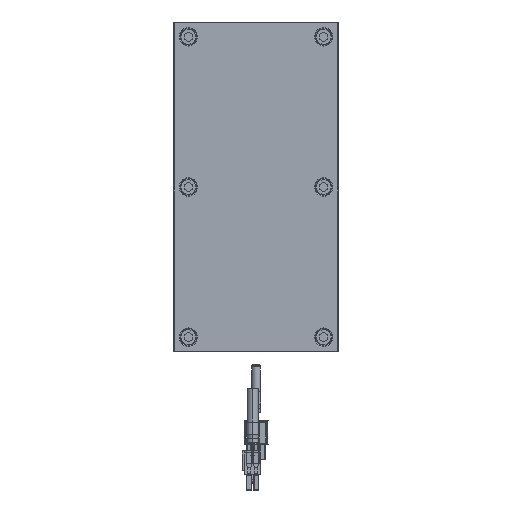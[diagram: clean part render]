
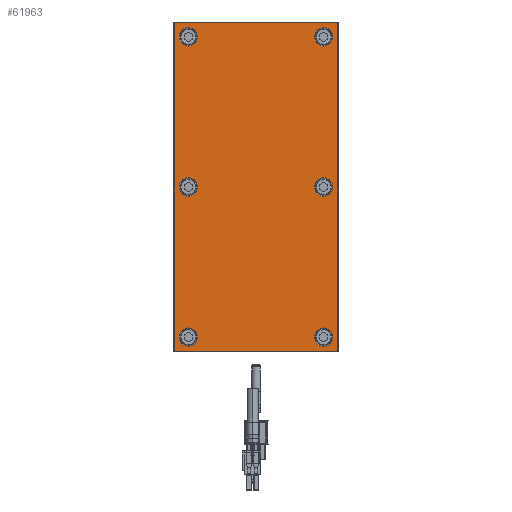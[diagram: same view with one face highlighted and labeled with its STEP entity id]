
A CAD part, front view. The second image highlights one B-rep face of the part: STEP entity #61963.
In plain terms, the highlighted planar face has unit normal (0, -1, 0).
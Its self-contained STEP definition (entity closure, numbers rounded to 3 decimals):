
#60580=CARTESIAN_POINT('',(99.,-7.,-49.));
#60581=DIRECTION('',(0.,-1.,0.));
#60582=DIRECTION('',(0.,0.,-1.));
#60583=AXIS2_PLACEMENT_3D('',#60580,#60581,#60582);
#60585=DIRECTION('',(1.,0.,0.));
#60586=VECTOR('',#60585,198.);
#60587=CARTESIAN_POINT('',(-99.,-7.,
-49.5));
#60588=LINE('',#60587,#60586);
#60589=CARTESIAN_POINT('',(-99.,-7.,-49.));
#60590=DIRECTION('',(0.,-1.,0.));
#60591=DIRECTION('',(-1.,0.,0.));
#60592=AXIS2_PLACEMENT_3D('',#60589,#60590,#60591);
#60594=DIRECTION('',(0.,0.,-1.));
#60595=VECTOR('',#60594,98.);
#60596=CARTESIAN_POINT('',(-99.5,-7.,
49.));
#60597=LINE('',#60596,#60595);
#60598=CARTESIAN_POINT('',(-99.,-7.,49.));
#60599=DIRECTION('',(0.,-1.,0.));
#60600=DIRECTION('',(0.,0.,1.));
#60601=AXIS2_PLACEMENT_3D('',#60598,#60599,#60600);
#60603=DIRECTION('',(-1.,0.,0.));
#60604=VECTOR('',#60603,198.);
#60605=CARTESIAN_POINT('',(99.,-7.,
49.5));
#60606=LINE('',#60605,#60604);
#60607=CARTESIAN_POINT('',(99.,-7.,49.));
#60608=DIRECTION('',(0.,-1.,0.));
#60609=DIRECTION('',(1.,0.,0.));
#60610=AXIS2_PLACEMENT_3D('',#60607,#60608,#60609);
#60612=DIRECTION('',(0.,0.,1.));
#60613=VECTOR('',#60612,98.);
#60614=CARTESIAN_POINT('',(99.5,-7.,
-49.));
#60615=LINE('',#60614,#60613);
#60616=CARTESIAN_POINT('',(-91.,-7.,-41.));
#60617=DIRECTION('',(0.,1.,0.));
#60618=DIRECTION('',(1.,0.,0.));
#60619=AXIS2_PLACEMENT_3D('',#60616,#60617,#60618);
#60621=CARTESIAN_POINT('',(-91.,-7.,-41.));
#60622=DIRECTION('',(0.,1.,0.));
#60623=DIRECTION('',(-1.,0.,0.));
#60624=AXIS2_PLACEMENT_3D('',#60621,#60622,#60623);
#60626=CARTESIAN_POINT('',(0.,-7.,-41.));
#60627=DIRECTION('',(0.,1.,0.));
#60628=DIRECTION('',(1.,0.,0.));
#60629=AXIS2_PLACEMENT_3D('',#60626,#60627,#60628);
#60631=CARTESIAN_POINT('',(0.,-7.,-41.));
#60632=DIRECTION('',(0.,1.,0.));
#60633=DIRECTION('',(-1.,0.,0.));
#60634=AXIS2_PLACEMENT_3D('',#60631,#60632,#60633);
#60636=CARTESIAN_POINT('',(91.,-7.,-41.));
#60637=DIRECTION('',(0.,1.,0.));
#60638=DIRECTION('',(1.,0.,0.));
#60639=AXIS2_PLACEMENT_3D('',#60636,#60637,#60638);
#60641=CARTESIAN_POINT('',(91.,-7.,-41.));
#60642=DIRECTION('',(0.,1.,0.));
#60643=DIRECTION('',(-1.,0.,0.));
#60644=AXIS2_PLACEMENT_3D('',#60641,#60642,#60643);
#60646=CARTESIAN_POINT('',(91.,-7.,41.));
#60647=DIRECTION('',(0.,1.,0.));
#60648=DIRECTION('',(1.,0.,0.));
#60649=AXIS2_PLACEMENT_3D('',#60646,#60647,#60648);
#60651=CARTESIAN_POINT('',(91.,-7.,41.));
#60652=DIRECTION('',(0.,1.,0.));
#60653=DIRECTION('',(-1.,0.,0.));
#60654=AXIS2_PLACEMENT_3D('',#60651,#60652,#60653);
#60656=CARTESIAN_POINT('',(0.,-7.,41.));
#60657=DIRECTION('',(0.,1.,0.));
#60658=DIRECTION('',(1.,0.,0.));
#60659=AXIS2_PLACEMENT_3D('',#60656,#60657,#60658);
#60661=CARTESIAN_POINT('',(0.,-7.,41.));
#60662=DIRECTION('',(0.,1.,0.));
#60663=DIRECTION('',(-1.,0.,0.));
#60664=AXIS2_PLACEMENT_3D('',#60661,#60662,#60663);
#60666=CARTESIAN_POINT('',(-91.,-7.,41.));
#60667=DIRECTION('',(0.,1.,0.));
#60668=DIRECTION('',(1.,0.,0.));
#60669=AXIS2_PLACEMENT_3D('',#60666,#60667,#60668);
#60671=CARTESIAN_POINT('',(-91.,-7.,41.));
#60672=DIRECTION('',(0.,1.,0.));
#60673=DIRECTION('',(-1.,0.,0.));
#60674=AXIS2_PLACEMENT_3D('',#60671,#60672,#60673);
#61704=CARTESIAN_POINT('',(99.,-7.,-49.5));
#61705=CARTESIAN_POINT('',(99.5,-7.,-49.));
#61706=VERTEX_POINT('',#61704);
#61707=VERTEX_POINT('',#61705);
#61712=CARTESIAN_POINT('',(99.5,-7.,
49.));
#61713=VERTEX_POINT('',#61712);
#61716=CARTESIAN_POINT('',(99.,-7.,49.5));
#61717=VERTEX_POINT('',#61716);
#61720=CARTESIAN_POINT('',(-99.,-7.,
49.5));
#61721=VERTEX_POINT('',#61720);
#61724=CARTESIAN_POINT('',(-99.5,-7.,49.));
#61725=VERTEX_POINT('',#61724);
#61728=CARTESIAN_POINT('',(-99.5,-7.,
-49.));
#61729=VERTEX_POINT('',#61728);
#61732=CARTESIAN_POINT('',(-99.,-7.,-49.5));
#61733=VERTEX_POINT('',#61732);
#61760=CARTESIAN_POINT('',(-85.45,-7.,-41.));
#61761=CARTESIAN_POINT('',(-96.55,-7.,-41.));
#61762=VERTEX_POINT('',#61760);
#61763=VERTEX_POINT('',#61761);
#61776=CARTESIAN_POINT('',(5.55,-7.,-41.));
#61777=CARTESIAN_POINT('',(-5.55,-7.,-41.));
#61778=VERTEX_POINT('',#61776);
#61779=VERTEX_POINT('',#61777);
#61800=CARTESIAN_POINT('',(96.55,-7.,-41.));
#61801=CARTESIAN_POINT('',(85.45,-7.,-41.));
#61802=VERTEX_POINT('',#61800);
#61803=VERTEX_POINT('',#61801);
#61816=CARTESIAN_POINT('',(96.55,-7.,41.));
#61817=CARTESIAN_POINT('',(85.45,-7.,41.));
#61818=VERTEX_POINT('',#61816);
#61819=VERTEX_POINT('',#61817);
#61824=CARTESIAN_POINT('',(5.55,-7.,41.));
#61825=CARTESIAN_POINT('',(-5.55,-7.,41.));
#61826=VERTEX_POINT('',#61824);
#61827=VERTEX_POINT('',#61825);
#61848=CARTESIAN_POINT('',(-85.45,-7.,41.));
#61849=CARTESIAN_POINT('',(-96.55,-7.,41.));
#61850=VERTEX_POINT('',#61848);
#61851=VERTEX_POINT('',#61849);
#61904=CARTESIAN_POINT('',(0.,-7.,0.));
#61905=DIRECTION('',(0.,1.,0.));
#61906=DIRECTION('',(1.,0.,0.));
#61907=AXIS2_PLACEMENT_3D('',#61904,#61905,#61906);
#61908=PLANE('',#61907);
#61910=ORIENTED_EDGE('',*,*,#61909,.F.);
#61912=ORIENTED_EDGE('',*,*,#61911,.F.);
#61914=ORIENTED_EDGE('',*,*,#61913,.F.);
#61916=ORIENTED_EDGE('',*,*,#61915,.F.);
#61918=ORIENTED_EDGE('',*,*,#61917,.F.);
#61920=ORIENTED_EDGE('',*,*,#61919,.F.);
#61922=ORIENTED_EDGE('',*,*,#61921,.F.);
#61924=ORIENTED_EDGE('',*,*,#61923,.F.);
#61925=EDGE_LOOP('',(#61910,#61912,#61914,#61916,#61918,#61920,#61922,#61924));
#61926=FACE_OUTER_BOUND('',#61925,.F.);
#61928=ORIENTED_EDGE('',*,*,#61927,.F.);
#61930=ORIENTED_EDGE('',*,*,#61929,.F.);
#61931=EDGE_LOOP('',(#61928,#61930));
#61932=FACE_BOUND('',#61931,.F.);
#61934=ORIENTED_EDGE('',*,*,#61933,.F.);
#61936=ORIENTED_EDGE('',*,*,#61935,.F.);
#61937=EDGE_LOOP('',(#61934,#61936));
#61938=FACE_BOUND('',#61937,.F.);
#61940=ORIENTED_EDGE('',*,*,#61939,.F.);
#61942=ORIENTED_EDGE('',*,*,#61941,.F.);
#61943=EDGE_LOOP('',(#61940,#61942));
#61944=FACE_BOUND('',#61943,.F.);
#61946=ORIENTED_EDGE('',*,*,#61945,.F.);
#61948=ORIENTED_EDGE('',*,*,#61947,.F.);
#61949=EDGE_LOOP('',(#61946,#61948));
#61950=FACE_BOUND('',#61949,.F.);
#61952=ORIENTED_EDGE('',*,*,#61951,.F.);
#61954=ORIENTED_EDGE('',*,*,#61953,.F.);
#61955=EDGE_LOOP('',(#61952,#61954));
#61956=FACE_BOUND('',#61955,.F.);
#61958=ORIENTED_EDGE('',*,*,#61957,.F.);
#61960=ORIENTED_EDGE('',*,*,#61959,.F.);
#61961=EDGE_LOOP('',(#61958,#61960));
#61962=FACE_BOUND('',#61961,.F.);
#61963=ADVANCED_FACE('',(#61926,#61932,#61938,#61944,#61950,#61956,#61962),
#61908,.F.);
#60584=CIRCLE('',#60583,0.5);
#60593=CIRCLE('',#60592,0.5);
#60602=CIRCLE('',#60601,0.5);
#60611=CIRCLE('',#60610,0.5);
#60620=CIRCLE('',#60619,5.55);
#60625=CIRCLE('',#60624,5.55);
#60630=CIRCLE('',#60629,5.55);
#60635=CIRCLE('',#60634,5.55);
#60640=CIRCLE('',#60639,5.55);
#60645=CIRCLE('',#60644,5.55);
#60650=CIRCLE('',#60649,5.55);
#60655=CIRCLE('',#60654,5.55);
#60660=CIRCLE('',#60659,5.55);
#60665=CIRCLE('',#60664,5.55);
#60670=CIRCLE('',#60669,5.55);
#60675=CIRCLE('',#60674,5.55);
#61909=EDGE_CURVE('',#61706,#61707,#60584,.T.);
#61911=EDGE_CURVE('',#61733,#61706,#60588,.T.);
#61913=EDGE_CURVE('',#61729,#61733,#60593,.T.);
#61915=EDGE_CURVE('',#61725,#61729,#60597,.T.);
#61917=EDGE_CURVE('',#61721,#61725,#60602,.T.);
#61919=EDGE_CURVE('',#61717,#61721,#60606,.T.);
#61921=EDGE_CURVE('',#61713,#61717,#60611,.T.);
#61923=EDGE_CURVE('',#61707,#61713,#60615,.T.);
#61927=EDGE_CURVE('',#61762,#61763,#60620,.T.);
#61929=EDGE_CURVE('',#61763,#61762,#60625,.T.);
#61933=EDGE_CURVE('',#61778,#61779,#60630,.T.);
#61935=EDGE_CURVE('',#61779,#61778,#60635,.T.);
#61939=EDGE_CURVE('',#61802,#61803,#60640,.T.);
#61941=EDGE_CURVE('',#61803,#61802,#60645,.T.);
#61945=EDGE_CURVE('',#61818,#61819,#60650,.T.);
#61947=EDGE_CURVE('',#61819,#61818,#60655,.T.);
#61951=EDGE_CURVE('',#61826,#61827,#60660,.T.);
#61953=EDGE_CURVE('',#61827,#61826,#60665,.T.);
#61957=EDGE_CURVE('',#61850,#61851,#60670,.T.);
#61959=EDGE_CURVE('',#61851,#61850,#60675,.T.);
